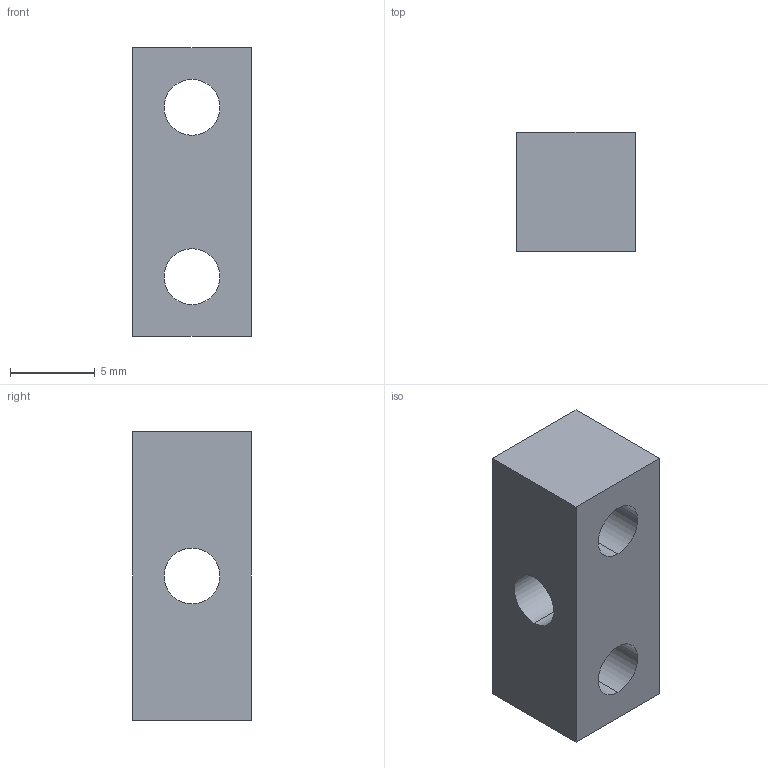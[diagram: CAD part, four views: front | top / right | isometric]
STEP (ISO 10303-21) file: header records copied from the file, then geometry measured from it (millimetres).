
FILE_DESCRIPTION (( 'STEP AP214' ), '1' );
FILE_NAME ('7mm_NutStrip_2x1_R1.STEP', '2019-10-05T04:13:55', ( 'Kurtis' ), ( '' ), 'SwSTEP 2.0', 'SolidWorks 2015', '' );
FILE_SCHEMA (( 'AUTOMOTIVE_DESIGN' ));
Length unit declared in the file: millimetre
Products named in the file (1): 7mm_NutStrip_2x1_R1
Bounding box: 7 x 7 x 17 mm (x, y, z)
Volume: 653.4 mm3; surface area: 740.4 mm2
Topology: 1 solids, 1 shells, 12 faces, 30 edges, 20 vertices
Faces by surface type: cylinder 6, plane 6
Entity records: 478 total; most frequent: DIRECTION 68, CARTESIAN_POINT 63, ORIENTED_EDGE 60, EDGE_CURVE 30, AXIS2_PLACEMENT_3D 25, VERTEX_POINT 20, EDGE_LOOP 18, LINE 18
